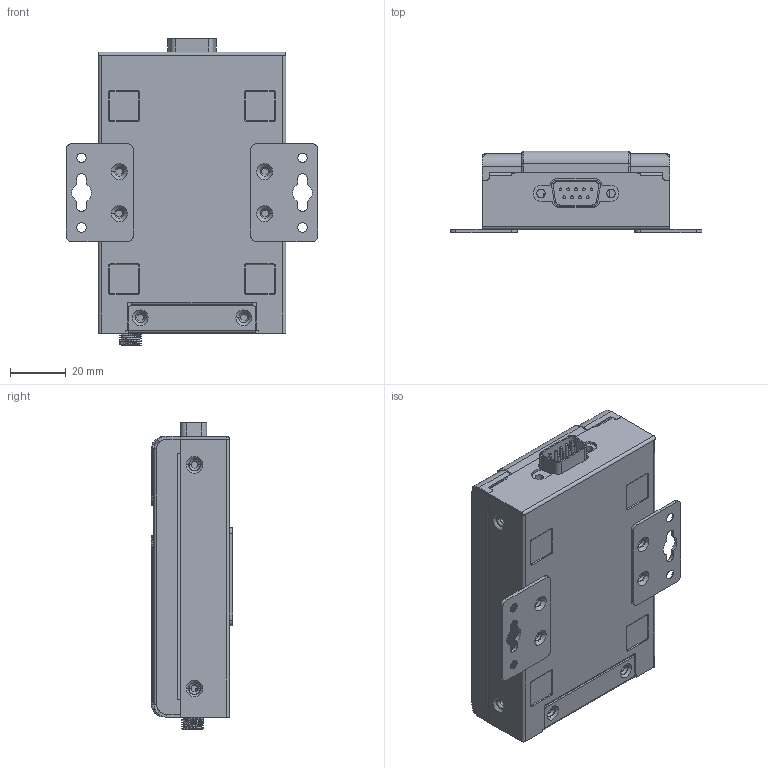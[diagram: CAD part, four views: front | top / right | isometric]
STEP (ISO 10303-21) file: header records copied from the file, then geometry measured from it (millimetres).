
FILE_DESCRIPTION((''),'2;1');
FILE_NAME('3D_NPORT6150_SAT','2014-02-05T',('Sam_Liu'),(''),'PRO/ENGINEER BY PARAMETRIC TECHNOLOGY CORPORATION, 2013230','PRO/ENGINEER BY PARAMETRIC TECHNOLOGY CORPORATION, 2013230','');
FILE_SCHEMA(('CONFIG_CONTROL_DESIGN'));
Length unit declared in the file: millimetre
Products named in the file (1): 3D_NPORT6150_SAT
Bounding box: 90 x 29.2 x 109.7 mm (x, y, z)
Volume: 37763.6 mm3; surface area: 76114.5 mm2
Topology: 12 solids, 13 shells, 1335 faces, 3355 edges, 2114 vertices
Faces by surface type: plane 793, cylinder 406, torus 55, bspline 49, cone 32
Entity records: 42645 total; most frequent: CARTESIAN_POINT 10136, DIRECTION 6729, ORIENTED_EDGE 6710, EDGE_CURVE 3355, AXIS2_PLACEMENT_3D 2248, VECTOR 2233, LINE 2233, VERTEX_POINT 2114
